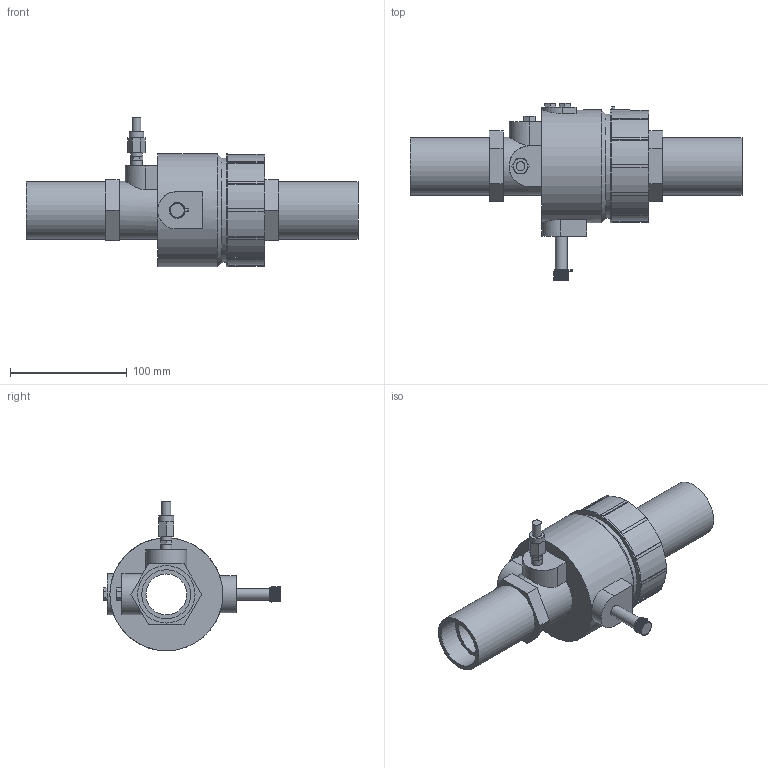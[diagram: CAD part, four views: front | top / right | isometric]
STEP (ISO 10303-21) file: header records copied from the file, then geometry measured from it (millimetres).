
FILE_DESCRIPTION(/* description */ ('VIC CONTROLLER DIFFERENTIAL PRESSURE TA SERIES 7DA (FPT)','CAx-IF Rec.Pracs.---Representation and Presentation of Product Manufacturing Information (PMI)---4.0---2014-10-13'),/* implementation_level */ '2;1');
FILE_NAME(/* name */ 'C:\Users\Vjadhav\Desktop\CAD for Inventor\1\7DA\STEP\Victaulic_IPS_Controller Differential Pressure_TA Series 7DA (FPT)\Victaulic_IPS_Controller Differential Pressure_TA Series 7DA (FPT)_1.25 (32).stp',/* time_stamp */ '2021-08-30T15:53:23+05:00',/* author */ ('Vjadhav'),/* organization */ ('Victaulic'),/* preprocessor_version */ 'ST-DEVELOPER v17.2',/* originating_system */ 'Autodesk Inventor 2019',/* authorisation */ '');
FILE_SCHEMA (('AP242_MANAGED_MODEL_BASED_3D_ENGINEERING_MIM_LF { 1 0 10303 442 1 1 4 }'));
Length unit declared in the file: inch
Products named in the file (1): 7DA-01.25
Bounding box: 284.99 x 152.02 x 128.51 mm (x, y, z)
Volume: 765878.6 mm3; surface area: 126484.5 mm2
Topology: 1 solids, 1 shells, 371 faces, 1039 edges, 692 vertices
Faces by surface type: plane 201, cylinder 122, torus 35, cone 13
Full cylindrical faces by diameter (mm): 2.54 x1, 7.62 x1, 9.525 x2, 10.16 x2, 12.7 x1, 35.052 x1, 42.164 x2, 49.276 x2, 50.033 x2, 61.341 x1, 63.881 x1, 89.275 x1, 91.948 x1, 96.895 x1
Entity records: 13144 total; most frequent: CARTESIAN_POINT 2924, ORIENTED_EDGE 2078, DIRECTION 2042, EDGE_CURVE 1039, AXIS2_PLACEMENT_3D 718, VERTEX_POINT 692, LINE 606, VECTOR 606
